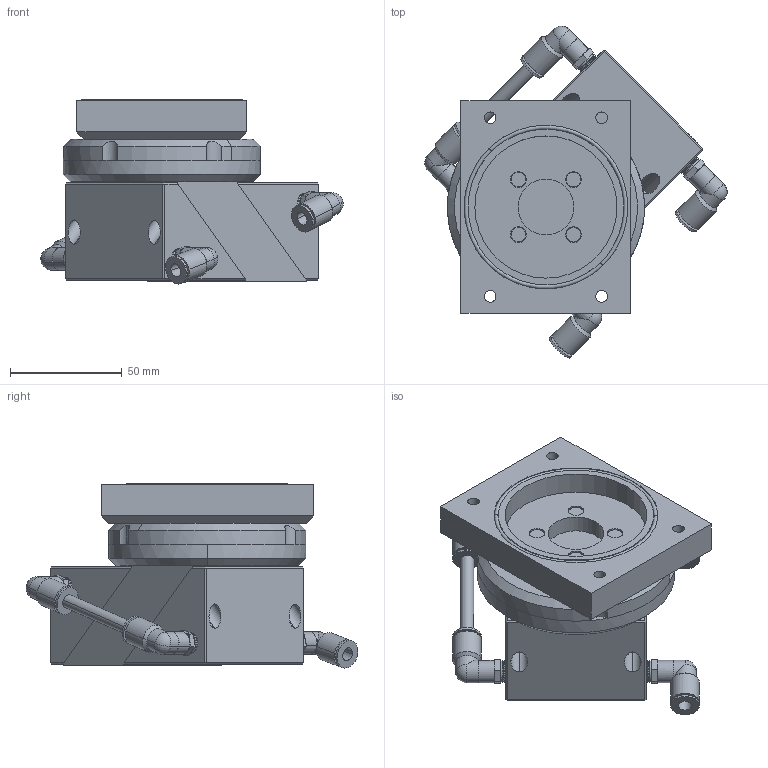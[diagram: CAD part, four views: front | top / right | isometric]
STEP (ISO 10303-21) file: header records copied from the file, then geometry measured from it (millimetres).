
FILE_DESCRIPTION (( 'STEP AP214' ), '1' );
FILE_NAME ('CPU-25-10.6-CFB.STEP', '2018-02-08T19:15:16', ( '' ), ( '' ), 'SwSTEP 2.0', 'SolidWorks 2017', '' );
FILE_SCHEMA (( 'AUTOMOTIVE_DESIGN' ));
Length unit declared in the file: inch
Products named in the file (1): CPU-25-10.6-CFB
Bounding box: 135.57 x 148.78 x 82.61 mm (x, y, z)
Volume: 475751.7 mm3; surface area: 70958.5 mm2
Topology: 13 solids, 13 shells, 648 faces, 1416 edges, 868 vertices
Faces by surface type: plane 256, cylinder 232, torus 78, cone 74, sphere 8
Entity records: 18211 total; most frequent: CARTESIAN_POINT 3476, DIRECTION 3295, ORIENTED_EDGE 2816, EDGE_CURVE 1408, AXIS2_PLACEMENT_3D 1327, VERTEX_POINT 868, EDGE_LOOP 742, CIRCLE 678
